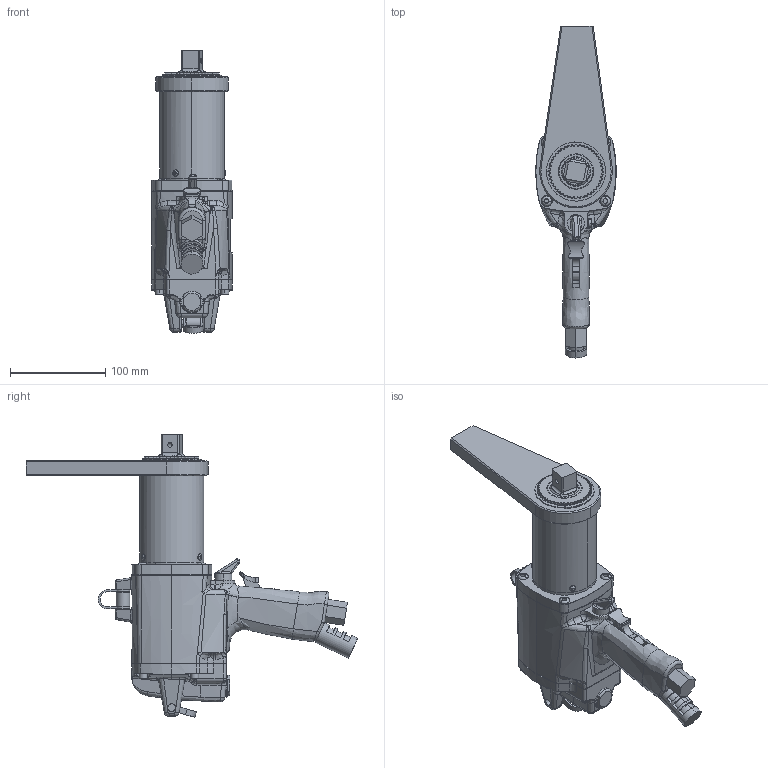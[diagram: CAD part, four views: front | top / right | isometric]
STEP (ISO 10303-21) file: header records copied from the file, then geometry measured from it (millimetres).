
FILE_DESCRIPTION (( 'STEP AP214' ), '1' );
FILE_NAME ('AAP1B76950A.STEP', '2014-12-06T00:25:22', ( 'AIMCO' ), ( '' ), 'SwSTEP 2.0', 'SolidWorks 2014', '' );
FILE_SCHEMA (( 'AUTOMOTIVE_DESIGN' ));
Length unit declared in the file: inch
Products named in the file (1): AAP1B76950A
Bounding box: 84.33 x 347.58 x 296.12 mm (x, y, z)
Surface area: 159535.1 mm2 (no closed solid volume)
Topology: 0 solids, 30 shells, 813 faces, 3378 edges, 2570 vertices
Faces by surface type: cylinder 256, bspline 245, plane 216, cone 74, torus 22
Entity records: 110559 total; most frequent: CARTESIAN_POINT 76005, ORIENTED_EDGE 5260, DIRECTION 3791, EDGE_CURVE 3352, VERTEX_POINT 2570, B_SPLINE_CURVE_WITH_KNOTS 1456, AXIS2_PLACEMENT_3D 1398, LINE 995
